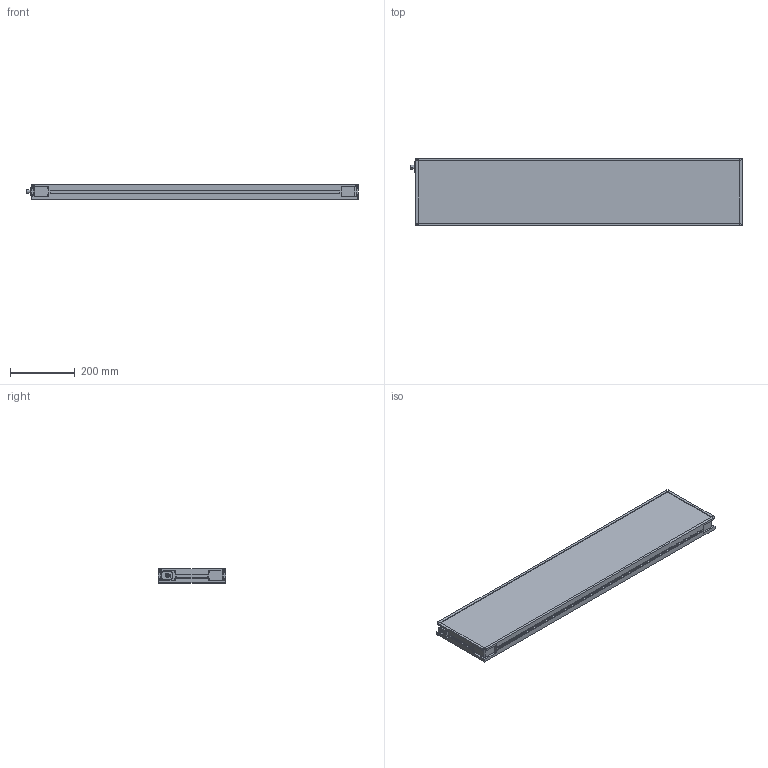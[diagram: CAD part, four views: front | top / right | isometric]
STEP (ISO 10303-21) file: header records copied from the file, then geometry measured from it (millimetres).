
FILE_DESCRIPTION (( 'STEP AP214' ), '1' );
FILE_NAME ('MBACK-xxxx-xxx-M1_CLIENT200x1000.STEP', '2022-03-31T15:57:20', ( '' ), ( '' ), 'SwSTEP 2.0', 'SolidWorks 2020', '' );
FILE_SCHEMA (( 'AUTOMOTIVE_DESIGN' ));
Length unit declared in the file: millimetre
Products named in the file (1): MBACK-xxxx-xxx-M1_CLIENT200x1000
Bounding box: 1025.9 x 208 x 45.5 mm (x, y, z)
Volume: 8660795.7 mm3; surface area: 580699.5 mm2
Topology: 1 solids, 1 shells, 442 faces, 1144 edges, 760 vertices
Faces by surface type: plane 249, cylinder 105, bspline 80, cone 8
Entity records: 17236 total; most frequent: CARTESIAN_POINT 6699, ORIENTED_EDGE 2288, DIRECTION 1936, EDGE_CURVE 1144, VERTEX_POINT 760, LINE 758, VECTOR 758, AXIS2_PLACEMENT_3D 589
